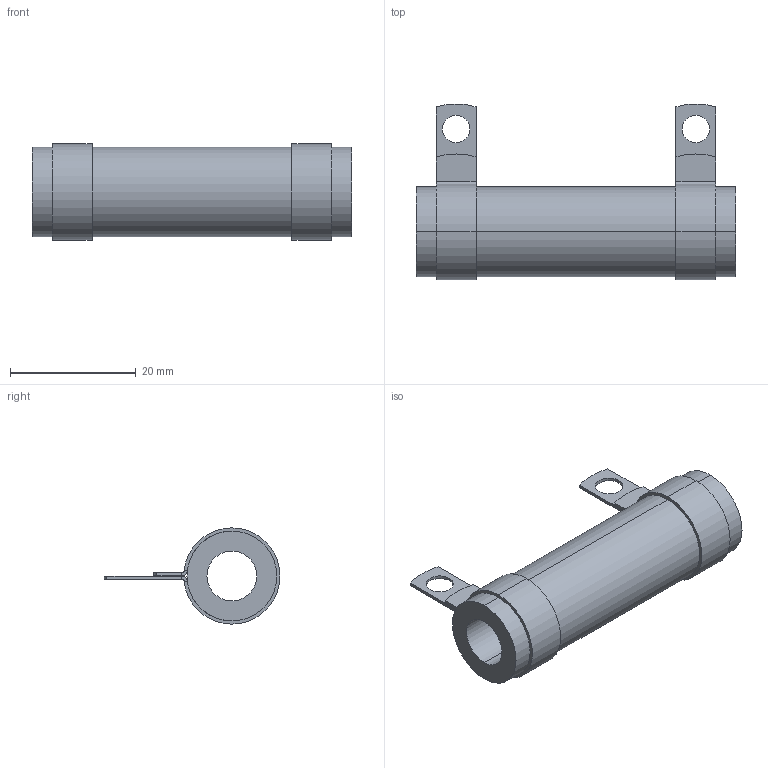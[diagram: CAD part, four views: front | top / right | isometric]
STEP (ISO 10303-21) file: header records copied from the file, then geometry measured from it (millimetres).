
FILE_DESCRIPTION (( 'STEP AP203' ), '1' );
FILE_NAME ('RBEF0040xxxxxKDB00.STEP', '2014-04-04T18:24:46', ( '' ), ( '' ), 'SwSTEP 2.0', 'SolidWorks 2012', '' );
FILE_SCHEMA (( 'CONFIG_CONTROL_DESIGN' ));
Length unit declared in the file: millimetre
Products named in the file (3): DAL15-140-XXX_DAL15-140-809-CLOSED; RBEF0040xxxxxKDB00; DAL013-03_DAL013-106
Assembly tree (3 placements, depth 2):
  RBEF0040xxxxxKDB00
    DAL013-03_DAL013-106
    DAL15-140-XXX_DAL15-140-809-CLOSED  x2
Bounding box: 50.8 x 27.97 x 15.29 mm (x, y, z)
Volume: 6022.7 mm3; surface area: 5465.8 mm2
Topology: 3 solids, 3 shells, 64 faces, 142 edges, 84 vertices
Faces by surface type: cylinder 34, plane 30
Entity records: 1306 total; most frequent: DIRECTION 197, CARTESIAN_POINT 164, ORIENTED_EDGE 154, AXIS2_PLACEMENT_3D 79, EDGE_CURVE 77, VERTEX_POINT 46, VECTOR 39, LINE 39
